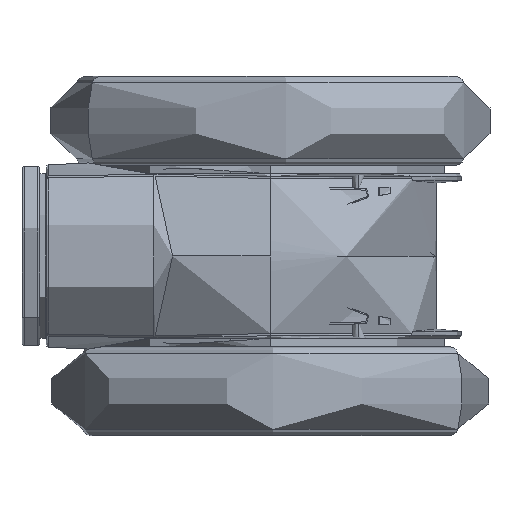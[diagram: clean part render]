
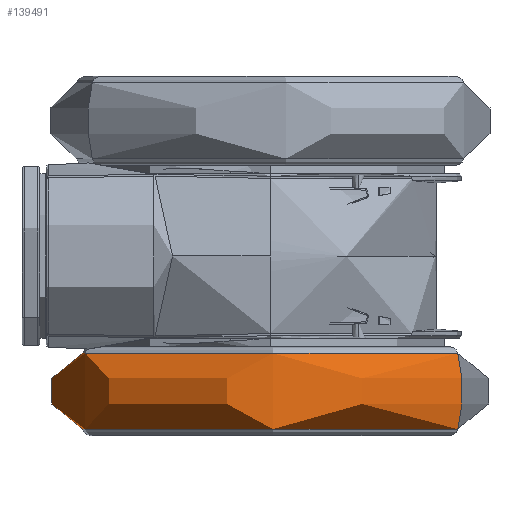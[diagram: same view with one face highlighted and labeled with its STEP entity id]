
A CAD part, left-side view. The second image highlights one B-rep face of the part: STEP entity #139491.
In plain terms, the highlighted toroidal (fillet/blend) face has major radius 19.75 mm and minor radius 30 mm.
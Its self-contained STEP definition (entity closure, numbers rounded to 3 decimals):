
#3050 = CARTESIAN_POINT ( 'NONE',  ( 55.737, -7.707, -21.929 ) ) ;
#6853 = DIRECTION ( 'NONE',  ( 0., 0., 1. ) ) ;
#8845 = AXIS2_PLACEMENT_3D ( 'NONE', #109911, #80657, #166553 ) ;
#9243 = DIRECTION ( 'NONE',  ( -0.489, -0.872, 0. ) ) ;
#18232 = CIRCLE ( 'NONE', #133489, 30. ) ;
#20843 = CARTESIAN_POINT ( 'NONE',  ( 32., -50., -39.071 ) ) ;
#21443 = ORIENTED_EDGE ( 'NONE', *, *, #34858, .F. ) ;
#23455 = VERTEX_POINT ( 'NONE', #104365 ) ;
#25037 = DIRECTION ( 'NONE',  ( 0., 0., 1. ) ) ;
#25824 = EDGE_LOOP ( 'NONE', ( #87081, #135560, #97296, #21443 ) ) ;
#34858 = EDGE_CURVE ( 'NONE', #134224, #57417, #136376, .T. ) ;
#35725 = DIRECTION ( 'NONE',  ( -0.872, 0.489, 0. ) ) ;
#37310 = TOROIDAL_SURFACE ( 'NONE', #8845, 19.75, 30. ) ;
#41555 = CARTESIAN_POINT ( 'NONE',  ( 41.666, -32.777, -30.5 ) ) ;
#43058 = CARTESIAN_POINT ( 'NONE',  ( 8.263, -92.293, -21.929 ) ) ;
#55588 = DIRECTION ( 'NONE',  ( 0.489, 0.872, 0. ) ) ;
#55881 = AXIS2_PLACEMENT_3D ( 'NONE', #136137, #25037, #122208 ) ;
#57417 = VERTEX_POINT ( 'NONE', #43058 ) ;
#70039 = AXIS2_PLACEMENT_3D ( 'NONE', #20843, #6853, #9243 ) ;
#80657 = DIRECTION ( 'NONE',  ( 0., 0., 1. ) ) ;
#87081 = ORIENTED_EDGE ( 'NONE', *, *, #157871, .F. ) ;
#96315 = FACE_OUTER_BOUND ( 'NONE', #25824, .T. ) ;
#97296 = ORIENTED_EDGE ( 'NONE', *, *, #160484, .T. ) ;
#104365 = CARTESIAN_POINT ( 'NONE',  ( 55.737, -7.707, -39.071 ) ) ;
#106578 = CARTESIAN_POINT ( 'NONE',  ( 22.334, -67.223, -30.5 ) ) ;
#107757 = CARTESIAN_POINT ( 'NONE',  ( 8.263, -92.293, -39.071 ) ) ;
#109234 = EDGE_CURVE ( 'NONE', #23455, #172984, #113342, .T. ) ;
#109911 = CARTESIAN_POINT ( 'NONE',  ( 32., -50., -30.5 ) ) ;
#113342 = CIRCLE ( 'NONE', #70039, 48.499 ) ;
#122208 = DIRECTION ( 'NONE',  ( -0.489, -0.872, 0. ) ) ;
#133394 = DIRECTION ( 'NONE',  ( -0.489, -0.872, 0. ) ) ;
#133489 = AXIS2_PLACEMENT_3D ( 'NONE', #41555, #139124, #55588 ) ;
#134224 = VERTEX_POINT ( 'NONE', #3050 ) ;
#135560 = ORIENTED_EDGE ( 'NONE', *, *, #109234, .T. ) ;
#136137 = CARTESIAN_POINT ( 'NONE',  ( 32., -50., -21.929 ) ) ;
#136376 = CIRCLE ( 'NONE', #55881, 48.499 ) ;
#137451 = AXIS2_PLACEMENT_3D ( 'NONE', #106578, #35725, #133394 ) ;
#139124 = DIRECTION ( 'NONE',  ( 0.872, -0.489, 0. ) ) ;
#139491 = ADVANCED_FACE ( 'NONE', ( #96315 ), #37310, .T. ) ;
#157871 = EDGE_CURVE ( 'NONE', #23455, #134224, #18232, .T. ) ;
#160484 = EDGE_CURVE ( 'NONE', #172984, #57417, #180046, .T. ) ;
#166553 = DIRECTION ( 'NONE',  ( -0.489, -0.872, 0. ) ) ;
#172984 = VERTEX_POINT ( 'NONE', #107757 ) ;
#180046 = CIRCLE ( 'NONE', #137451, 30. ) ;
